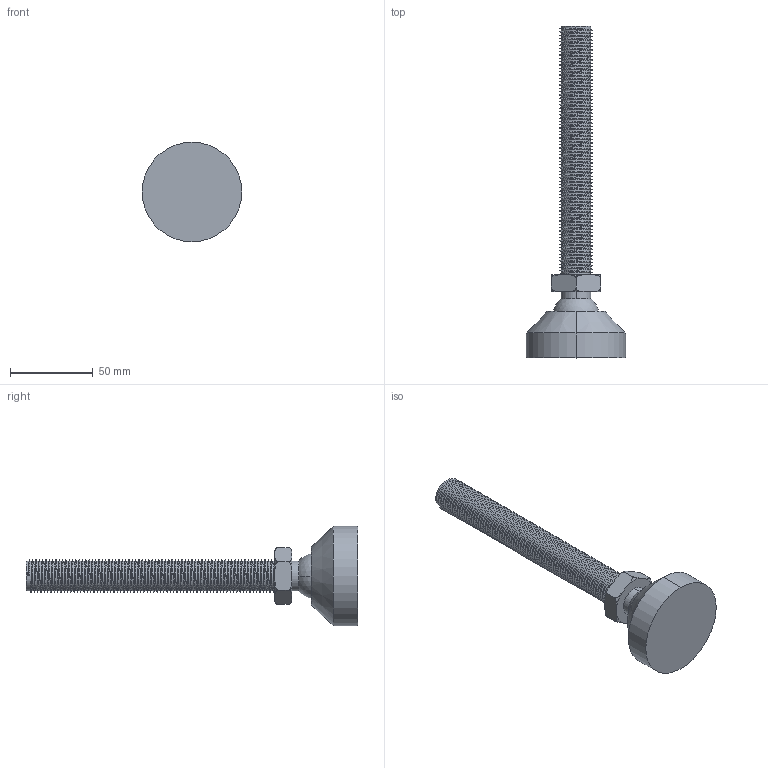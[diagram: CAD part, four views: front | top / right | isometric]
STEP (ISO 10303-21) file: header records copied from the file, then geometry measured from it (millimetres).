
FILE_DESCRIPTION (( 'STEP AP203' ), '1' );
FILE_NAME ('C6016150.STEP', '2018-01-17T03:56:00', ( '' ), ( '' ), 'SwSTEP 2.0', 'SolidWorks 2014', '' );
FILE_SCHEMA (( 'CONFIG_CONTROL_DESIGN' ));
Length unit declared in the file: millimetre
Products named in the file (3): C6016150; 底座C60; 螺桿M16XL150XP2C
Assembly tree (2 placements, depth 2):
  C6016150
    底座C60
    螺桿M16XL150XP2C
Bounding box: 60 x 200 x 60 mm (x, y, z)
Volume: 118191.3 mm3; surface area: 29470.6 mm2
Topology: 2 solids, 2 shells, 188 faces, 551 edges, 366 vertices
Faces by surface type: cylinder 154, torus 14, plane 12, sphere 4, cone 2, bspline 2
Entity records: 12716 total; most frequent: CARTESIAN_POINT 8401, ORIENTED_EDGE 1082, DIRECTION 634, EDGE_CURVE 541, VERTEX_POINT 360, AXIS2_PLACEMENT_3D 229, EDGE_LOOP 191, FACE_OUTER_BOUND 188
